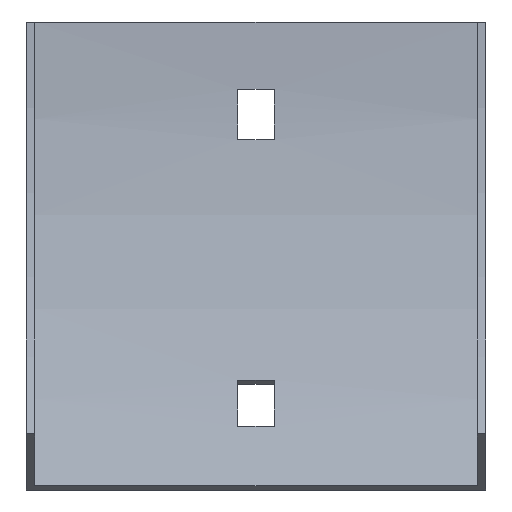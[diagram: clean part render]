
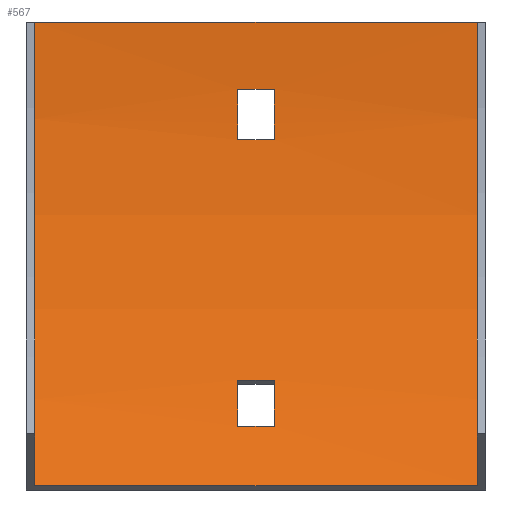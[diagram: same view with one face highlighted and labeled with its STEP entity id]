
A CAD part, front view. The second image highlights one B-rep face of the part: STEP entity #567.
In plain terms, the highlighted cylindrical face has radius 165.5 mm (diameter 331 mm), a partial arc.
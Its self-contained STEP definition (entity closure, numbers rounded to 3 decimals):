
#6 = FACE_BOUND ( 'NONE', #221, .T. ) ;
#13 = ORIENTED_EDGE ( 'NONE', *, *, #31, .F. ) ;
#16 = CIRCLE ( 'NONE', #436, 165.5 ) ;
#17 = CIRCLE ( 'NONE', #281, 165.5 ) ;
#22 = EDGE_CURVE ( 'NONE', #582, #306, #452, .T. ) ;
#30 = DIRECTION ( 'NONE',  ( -1., 0., 0. ) ) ;
#31 = EDGE_CURVE ( 'NONE', #575, #57, #313, .T. ) ;
#36 = AXIS2_PLACEMENT_3D ( 'NONE', #335, #160, #574 ) ;
#38 = CARTESIAN_POINT ( 'NONE',  ( 3.25, -14.331, -63.895 ) ) ;
#46 = ORIENTED_EDGE ( 'NONE', *, *, #257, .F. ) ;
#48 = CARTESIAN_POINT ( 'NONE',  ( 3.25, -18.05, -72.14 ) ) ;
#51 = CARTESIAN_POINT ( 'NONE',  ( -39.5, -23.673, -82.75 ) ) ;
#55 = DIRECTION ( 'NONE',  ( -1., 0., 0. ) ) ;
#57 = VERTEX_POINT ( 'NONE', #83 ) ;
#68 = VERTEX_POINT ( 'NONE', #38 ) ;
#71 = CARTESIAN_POINT ( 'NONE',  ( 41., -2.838, -21. ) ) ;
#73 = ORIENTED_EDGE ( 'NONE', *, *, #274, .F. ) ;
#83 = CARTESIAN_POINT ( 'NONE',  ( 3.25, -2.838, -21. ) ) ;
#92 = VERTEX_POINT ( 'NONE', #347 ) ;
#93 = CARTESIAN_POINT ( 'NONE',  ( 41., -167., 0. ) ) ;
#97 = AXIS2_PLACEMENT_3D ( 'NONE', #93, #55, #378 ) ;
#101 = DIRECTION ( 'NONE',  ( 1., 0., 0. ) ) ;
#112 = CARTESIAN_POINT ( 'NONE',  ( 3.25, -167., 0. ) ) ;
#115 = CARTESIAN_POINT ( 'NONE',  ( -3.25, -1.936, -12. ) ) ;
#118 = EDGE_CURVE ( 'NONE', #526, #92, #533, .T. ) ;
#119 = DIRECTION ( 'NONE',  ( 1., 0., 0. ) ) ;
#123 = CARTESIAN_POINT ( 'NONE',  ( 39.5, -1.5, 0. ) ) ;
#144 = FACE_BOUND ( 'NONE', #524, .T. ) ;
#150 = DIRECTION ( 'NONE',  ( 0., 0., 1. ) ) ;
#160 = DIRECTION ( 'NONE',  ( -1., 0., 0. ) ) ;
#171 = CARTESIAN_POINT ( 'NONE',  ( -3.25, -14.331, -63.895 ) ) ;
#175 = VERTEX_POINT ( 'NONE', #51 ) ;
#180 = VERTEX_POINT ( 'NONE', #377 ) ;
#183 = DIRECTION ( 'NONE',  ( 0., 0., -1. ) ) ;
#185 = EDGE_CURVE ( 'NONE', #369, #526, #17, .T. ) ;
#187 = CIRCLE ( 'NONE', #285, 165.5 ) ;
#191 = DIRECTION ( 'NONE',  ( 1., 0., 0. ) ) ;
#199 = CYLINDRICAL_SURFACE ( 'NONE', #97, 165.5 ) ;
#203 = EDGE_CURVE ( 'NONE', #306, #600, #16, .T. ) ;
#205 = ORIENTED_EDGE ( 'NONE', *, *, #499, .T. ) ;
#207 = VECTOR ( 'NONE', #119, 1000. ) ;
#208 = LINE ( 'NONE', #342, #527 ) ;
#213 = ORIENTED_EDGE ( 'NONE', *, *, #203, .T. ) ;
#215 = CARTESIAN_POINT ( 'NONE',  ( 39.5, -1.5, 0. ) ) ;
#221 = EDGE_LOOP ( 'NONE', ( #302, #213, #205, #591 ) ) ;
#223 = AXIS2_PLACEMENT_3D ( 'NONE', #112, #383, #246 ) ;
#239 = EDGE_CURVE ( 'NONE', #180, #319, #529, .T. ) ;
#246 = DIRECTION ( 'NONE',  ( 0., 0., -1. ) ) ;
#257 = EDGE_CURVE ( 'NONE', #57, #180, #479, .T. ) ;
#262 = VECTOR ( 'NONE', #487, 1000. ) ;
#266 = EDGE_CURVE ( 'NONE', #319, #575, #300, .T. ) ;
#274 = EDGE_CURVE ( 'NONE', #369, #175, #208, .T. ) ;
#280 = CARTESIAN_POINT ( 'NONE',  ( -3.25, -2.838, -21. ) ) ;
#281 = AXIS2_PLACEMENT_3D ( 'NONE', #331, #421, #607 ) ;
#285 = AXIS2_PLACEMENT_3D ( 'NONE', #417, #191, #371 ) ;
#300 = CIRCLE ( 'NONE', #36, 165.5 ) ;
#302 = ORIENTED_EDGE ( 'NONE', *, *, #22, .T. ) ;
#304 = DIRECTION ( 'NONE',  ( 1., 0., 0. ) ) ;
#306 = VERTEX_POINT ( 'NONE', #340 ) ;
#311 = LINE ( 'NONE', #528, #207 ) ;
#312 = CARTESIAN_POINT ( 'NONE',  ( 41., -18.05, -72.14 ) ) ;
#313 = LINE ( 'NONE', #71, #551 ) ;
#314 = ORIENTED_EDGE ( 'NONE', *, *, #118, .T. ) ;
#319 = VERTEX_POINT ( 'NONE', #115 ) ;
#324 = CARTESIAN_POINT ( 'NONE',  ( 3.25, -167., 0. ) ) ;
#331 = CARTESIAN_POINT ( 'NONE',  ( 39.5, -167., 0. ) ) ;
#335 = CARTESIAN_POINT ( 'NONE',  ( -3.25, -167., 0. ) ) ;
#338 = VECTOR ( 'NONE', #30, 1000. ) ;
#340 = CARTESIAN_POINT ( 'NONE',  ( -3.25, -18.05, -72.14 ) ) ;
#342 = CARTESIAN_POINT ( 'NONE',  ( 39.5, -23.673, -82.75 ) ) ;
#347 = CARTESIAN_POINT ( 'NONE',  ( -39.5, -1.5, 0. ) ) ;
#349 = EDGE_CURVE ( 'NONE', #68, #582, #456, .T. ) ;
#369 = VERTEX_POINT ( 'NONE', #504 ) ;
#371 = DIRECTION ( 'NONE',  ( 0., 0., 1. ) ) ;
#377 = CARTESIAN_POINT ( 'NONE',  ( 3.25, -1.936, -12. ) ) ;
#378 = DIRECTION ( 'NONE',  ( 0., 0., 1. ) ) ;
#380 = DIRECTION ( 'NONE',  ( -1., 0., 0. ) ) ;
#383 = DIRECTION ( 'NONE',  ( 1., 0., 0. ) ) ;
#388 = CARTESIAN_POINT ( 'NONE',  ( 41., -1.936, -12. ) ) ;
#407 = VECTOR ( 'NONE', #380, 1000. ) ;
#417 = CARTESIAN_POINT ( 'NONE',  ( -39.5, -167., 0. ) ) ;
#421 = DIRECTION ( 'NONE',  ( 1., 0., 0. ) ) ;
#436 = AXIS2_PLACEMENT_3D ( 'NONE', #468, #101, #183 ) ;
#438 = AXIS2_PLACEMENT_3D ( 'NONE', #324, #562, #150 ) ;
#451 = EDGE_LOOP ( 'NONE', ( #544, #73, #485, #314 ) ) ;
#452 = LINE ( 'NONE', #312, #262 ) ;
#454 = ORIENTED_EDGE ( 'NONE', *, *, #239, .F. ) ;
#456 = CIRCLE ( 'NONE', #438, 165.5 ) ;
#468 = CARTESIAN_POINT ( 'NONE',  ( -3.25, -167., 0. ) ) ;
#474 = DIRECTION ( 'NONE',  ( -1., 0., 0. ) ) ;
#479 = CIRCLE ( 'NONE', #223, 165.5 ) ;
#483 = EDGE_CURVE ( 'NONE', #175, #92, #187, .T. ) ;
#485 = ORIENTED_EDGE ( 'NONE', *, *, #185, .T. ) ;
#487 = DIRECTION ( 'NONE',  ( -1., 0., 0. ) ) ;
#497 = ORIENTED_EDGE ( 'NONE', *, *, #266, .F. ) ;
#499 = EDGE_CURVE ( 'NONE', #600, #68, #311, .T. ) ;
#504 = CARTESIAN_POINT ( 'NONE',  ( 39.5, -23.673, -82.75 ) ) ;
#507 = FACE_OUTER_BOUND ( 'NONE', #451, .T. ) ;
#524 = EDGE_LOOP ( 'NONE', ( #497, #454, #46, #13 ) ) ;
#526 = VERTEX_POINT ( 'NONE', #215 ) ;
#527 = VECTOR ( 'NONE', #474, 1000. ) ;
#528 = CARTESIAN_POINT ( 'NONE',  ( 41., -14.331, -63.895 ) ) ;
#529 = LINE ( 'NONE', #388, #407 ) ;
#533 = LINE ( 'NONE', #123, #338 ) ;
#544 = ORIENTED_EDGE ( 'NONE', *, *, #483, .F. ) ;
#551 = VECTOR ( 'NONE', #304, 1000. ) ;
#562 = DIRECTION ( 'NONE',  ( -1., 0., 0. ) ) ;
#567 = ADVANCED_FACE ( 'NONE', ( #144, #507, #6 ), #199, .F. ) ;
#574 = DIRECTION ( 'NONE',  ( 0., 0., 1. ) ) ;
#575 = VERTEX_POINT ( 'NONE', #280 ) ;
#582 = VERTEX_POINT ( 'NONE', #48 ) ;
#591 = ORIENTED_EDGE ( 'NONE', *, *, #349, .T. ) ;
#600 = VERTEX_POINT ( 'NONE', #171 ) ;
#607 = DIRECTION ( 'NONE',  ( 0., 0., 1. ) ) ;
